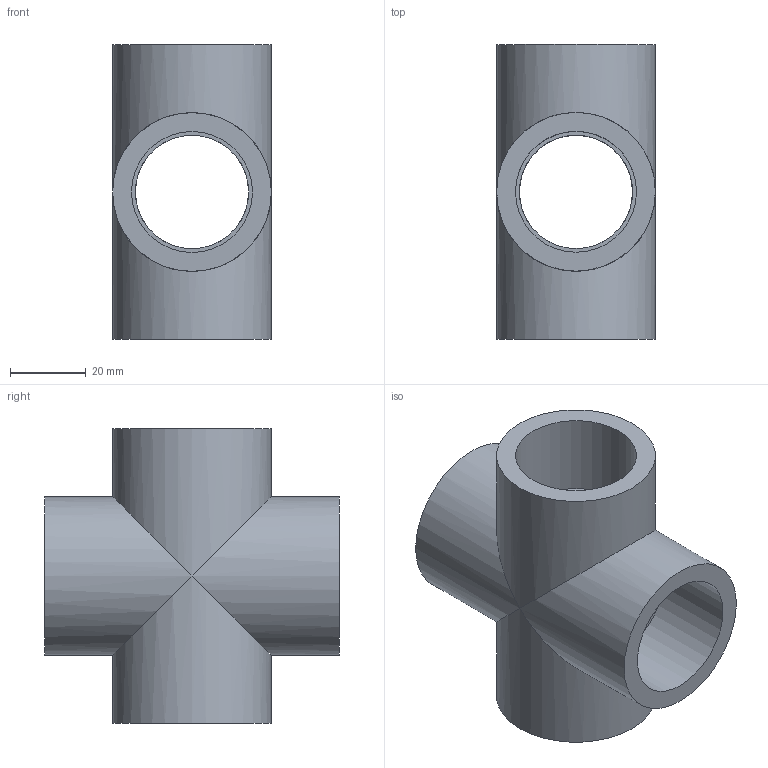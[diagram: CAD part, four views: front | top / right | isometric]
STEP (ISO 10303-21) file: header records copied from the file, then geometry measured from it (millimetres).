
FILE_DESCRIPTION(/* description */ ('Croci a 90° PVC'),/* implementation_level */ '2;1');
FILE_NAME(/* name */ 'C:\Users\POLYPIPE\Desktop\DATASET INVENTOR\LIBRERIA EFFAST\RACCORDI 3DxWEB\RDR\3D_RDRCRD\3D_RDRCRD0320.stp',/* time_stamp */ '2018-01-19T14:17:14+01:00',/* author */ ('POLYPIPE'),/* organization */ ('Polypipe Italia s.r.l.'),/* preprocessor_version */ 'ST-DEVELOPER v16.1',/* originating_system */ 'Autodesk Inventor 2016',/* authorisation */ '');
FILE_SCHEMA (('CONFIG_CONTROL_DESIGN'));
Length unit declared in the file: millimetre
Products named in the file (1): 3D_RDRCRD
Bounding box: 42 x 78 x 78 mm (x, y, z)
Volume: 65896.9 mm3; surface area: 27897.6 mm2
Topology: 1 solids, 1 shells, 20 faces, 36 edges, 20 vertices
Faces by surface type: cylinder 12, plane 8
Full cylindrical faces by diameter (mm): 30 x4, 32 x4, 42 x4
Entity records: 464 total; most frequent: DIRECTION 90, CARTESIAN_POINT 65, ORIENTED_EDGE 48, AXIS2_PLACEMENT_3D 45, EDGE_LOOP 40, EDGE_CURVE 24, FACE_BOUND 20, FACE_OUTER_BOUND 20
